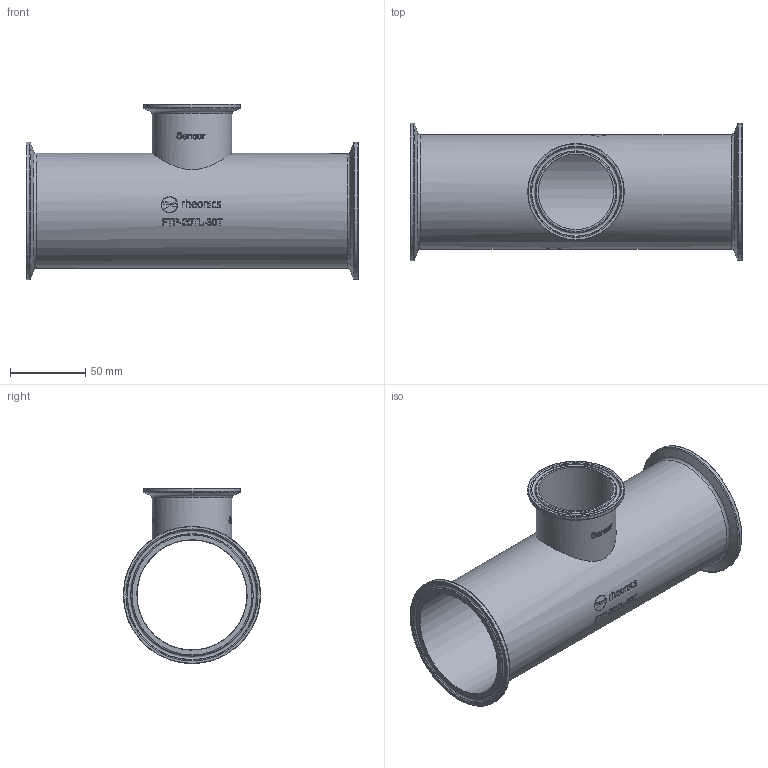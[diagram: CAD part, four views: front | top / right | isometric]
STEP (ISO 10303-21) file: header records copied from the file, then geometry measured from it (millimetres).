
FILE_DESCRIPTION(/* description */ ('Unknown'),/* implementation_level */ '2;1');
FILE_NAME(/* name */ 'FTP-20TL-30T',/* time_stamp */ '2024-12-26T12:23:55-05:00',/* author */ ('Unknown'),/* organization */ ('Unknown'),/* preprocessor_version */ 'ST-DEVELOPER v16.7',/* originating_system */ 'Solid Edge',/* authorisation */ 'Unknown');
FILE_SCHEMA (('AUTOMOTIVE_DESIGN {1 0 10303 214 3 1 1}'));
Products named in the file (1): FTP-20TL-30T
Bounding box: 220 x 91 x 116.1 mm (x, y, z)
Volume: 108321.3 mm3; surface area: 121545.3 mm2
Topology: 1 solids, 1 shells, 522 faces, 1303 edges, 860 vertices
Faces by surface type: bspline 230, plane 182, cylinder 81, torus 20, cone 9
Full cylindrical faces by diameter (mm): 50 x1, 53 x1, 64 x1, 72.9 x1, 76.2 x1, 91 x2
Entity records: 43654 total; most frequent: CARTESIAN_POINT 29137, ORIENTED_EDGE 2498, DIRECTION 1581, EDGE_CURVE 1249, VERTEX_POINT 855, EDGE_LOOP 652, FACE_BOUND 652, LINE 529
